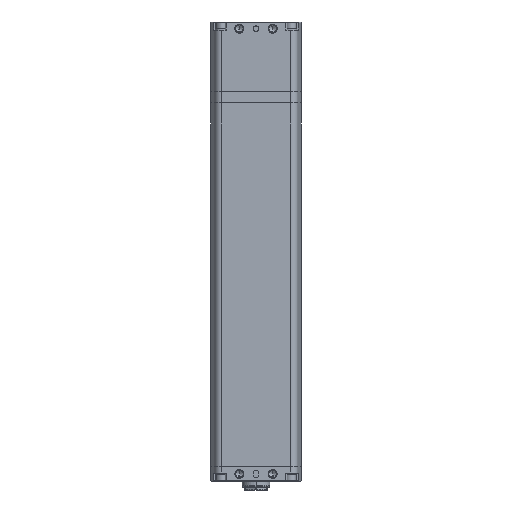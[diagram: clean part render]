
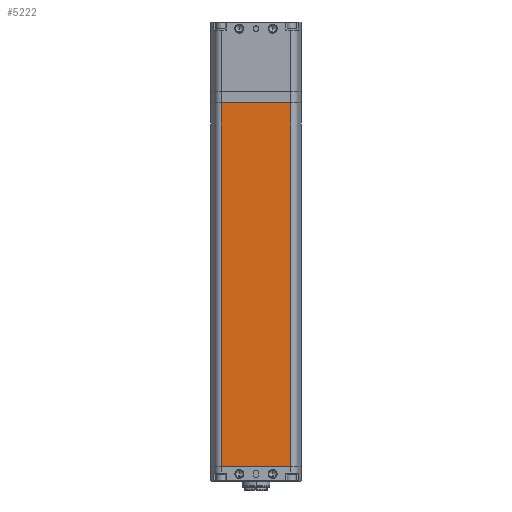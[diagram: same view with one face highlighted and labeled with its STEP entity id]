
A CAD part, front view. The second image highlights one B-rep face of the part: STEP entity #5222.
In plain terms, the highlighted planar face has unit normal (0, -1, 0).
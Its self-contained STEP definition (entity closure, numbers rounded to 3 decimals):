
#111 = ORIENTED_EDGE ( 'NONE', *, *, #14722, .F. ) ;
#1064 = EDGE_CURVE ( 'NONE', #12137, #10261, #1959, .T. ) ;
#1350 = VECTOR ( 'NONE', #13997, 1000. ) ;
#1392 = CARTESIAN_POINT ( 'NONE',  ( -41., -41., -1073. ) ) ;
#1959 = LINE ( 'NONE', #2424, #13447 ) ;
#2312 = DIRECTION ( 'NONE',  ( 1., 0., 0. ) ) ;
#2424 = CARTESIAN_POINT ( 'NONE',  ( -41., -41., -401. ) ) ;
#3141 = CARTESIAN_POINT ( 'NONE',  ( -41., -41., -73. ) ) ;
#4168 = EDGE_CURVE ( 'NONE', #19022, #12137, #8703, .T. ) ;
#4292 = CARTESIAN_POINT ( 'NONE',  ( 31.138, -41., -401. ) ) ;
#5222 = ADVANCED_FACE ( 'NONE', ( #8380 ), #21926, .T. ) ;
#5538 = CARTESIAN_POINT ( 'NONE',  ( -31.138, -41., -1073. ) ) ;
#6274 = EDGE_LOOP ( 'NONE', ( #21596, #17950, #21675, #111 ) ) ;
#6589 = VECTOR ( 'NONE', #17873, 1000. ) ;
#7378 = CARTESIAN_POINT ( 'NONE',  ( 31.138, -41., -1073. ) ) ;
#8192 = AXIS2_PLACEMENT_3D ( 'NONE', #1392, #20117, #13231 ) ;
#8380 = FACE_OUTER_BOUND ( 'NONE', #6274, .T. ) ;
#8703 = LINE ( 'NONE', #5538, #1350 ) ;
#10261 = VERTEX_POINT ( 'NONE', #4292 ) ;
#10817 = EDGE_CURVE ( 'NONE', #10261, #11964, #10991, .T. ) ;
#10991 = LINE ( 'NONE', #7378, #6589 ) ;
#11422 = VECTOR ( 'NONE', #14891, 1000. ) ;
#11964 = VERTEX_POINT ( 'NONE', #21200 ) ;
#12137 = VERTEX_POINT ( 'NONE', #14661 ) ;
#13231 = DIRECTION ( 'NONE',  ( 0., 0., -1. ) ) ;
#13447 = VECTOR ( 'NONE', #2312, 1000. ) ;
#13997 = DIRECTION ( 'NONE',  ( 0., 0., -1. ) ) ;
#14661 = CARTESIAN_POINT ( 'NONE',  ( -31.138, -41., -401. ) ) ;
#14722 = EDGE_CURVE ( 'NONE', #19022, #11964, #18598, .T. ) ;
#14891 = DIRECTION ( 'NONE',  ( 1., 0., 0. ) ) ;
#17873 = DIRECTION ( 'NONE',  ( 0., 0., 1. ) ) ;
#17950 = ORIENTED_EDGE ( 'NONE', *, *, #1064, .T. ) ;
#17975 = CARTESIAN_POINT ( 'NONE',  ( -31.138, -41., -73. ) ) ;
#18598 = LINE ( 'NONE', #3141, #11422 ) ;
#19022 = VERTEX_POINT ( 'NONE', #17975 ) ;
#20117 = DIRECTION ( 'NONE',  ( 0., -1., 0. ) ) ;
#21200 = CARTESIAN_POINT ( 'NONE',  ( 31.138, -41., -73. ) ) ;
#21596 = ORIENTED_EDGE ( 'NONE', *, *, #4168, .T. ) ;
#21675 = ORIENTED_EDGE ( 'NONE', *, *, #10817, .T. ) ;
#21926 = PLANE ( 'NONE',  #8192 ) ;
